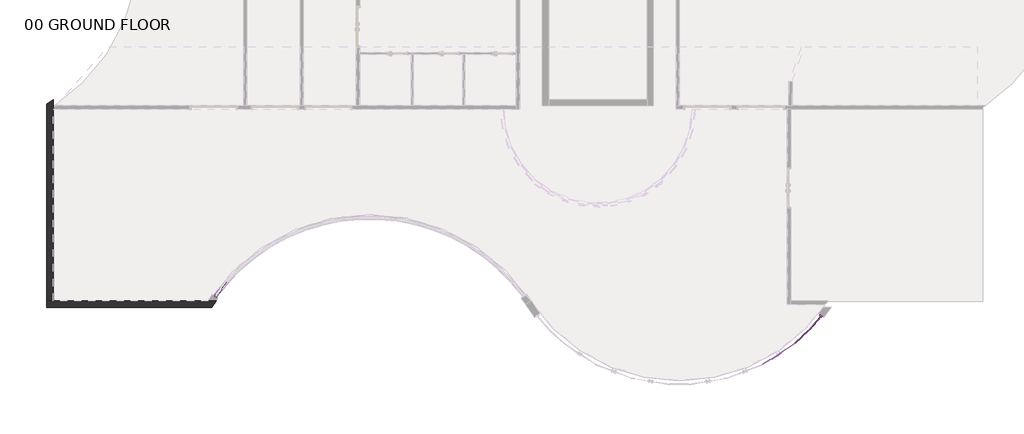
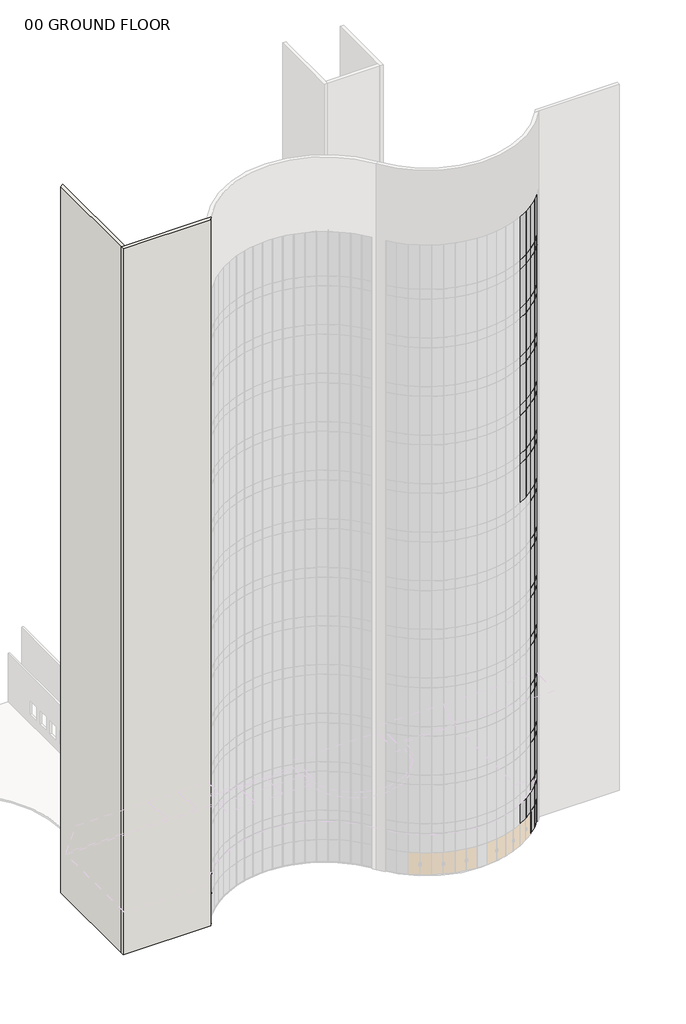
# One storey, part 4 of 33: 78 plates, 30 members, 2 walls.
"""IFC4 building model written with IfcOpenShell, lengths in millimetres."""

from ifc_helpers import new_model, si_unit, frame, origin, place, context, project, spatial, polyline, circle_curve, transform, mapped, element, save
from ifc_brep_helpers import plane_surface, revolved_surface, advanced_brep
from components import member_3374d9b6, member_73c23c35, member_4d31274b, member_2fae0574, member_45b72dba, member_43bcb4d4, system_panel_su_blue_3eab7189, system_panel_su_blue_125f0d55, system_panel_su_blue_e3d46445, system_panel_su_blue_33e27b82, system_panel_su_blue_8cdae4af, system_panel_su_blue_3064f965, system_panel_su_blue_775d8c72, system_panel_su_blue_5a18cedf, system_panel_su_blue_751729b9, system_panel_su_blue_3781345d, system_panel_su_blue_04b5f7fc, system_panel_su_blue_583b5c60

model = new_model("IFC4")

# Units and contexts
model_context = context("Model", 3, world=origin())
ifc_project = project(units=[si_unit("LENGTHUNIT", "METRE", prefix="MILLI")], contexts=[model_context])

# Site, building, storey
site = spatial("IfcSite", under=ifc_project)
building = spatial("IfcBuilding", under=site)
storey = spatial("IfcBuildingStorey", under=building, Name="00 GROUND FLOOR", Elevation=0.0)

# Members
placement = place(None, origin())
member_shape = member_3374d9b6(model_context)
element("IfcMember", 1, ObjectType="Rectangular Mullion : 2.5\" x 5\" rectangular", at=placement, inside=storey, context=model_context, shape_type="MappedRepresentation", body=[
    mapped(member_shape, transform((7803.0326978, 362.2740469, 0.0), x_axis=(-0.6249409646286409, -0.7806720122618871, 0.0), y_axis=(-0.7806720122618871, 0.6249409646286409, 0.0), z_axis=(0.0, 0.0, -1.0))),
])
member_2_shape = member_73c23c35(model_context)
element("IfcMember", 2, ObjectType="Rectangular Mullion : 2.5\" x 5\" rectangular", at=placement, inside=storey, context=model_context, shape_type="MappedRepresentation", body=[
    mapped(member_2_shape, transform((7803.0326978, 362.2740469, 3962.4), x_axis=(-0.624940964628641, -0.780672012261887, 0.0), y_axis=(-0.780672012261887, 0.624940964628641, 0.0), z_axis=(0.0, 0.0, -1.0))),
])
element("IfcMember", 3, ObjectType="Rectangular Mullion : 2.5\" x 5\" rectangular", at=placement, inside=storey, context=model_context, shape_type="MappedRepresentation", body=[
    mapped(member_2_shape, transform((7803.0326978, 362.2740469, 8534.4), x_axis=(-0.624940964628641, -0.780672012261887, 0.0), y_axis=(-0.780672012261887, 0.624940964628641, 0.0), z_axis=(0.0, 0.0, -1.0))),
])
element("IfcMember", 4, ObjectType="Rectangular Mullion : 2.5\" x 5\" rectangular", at=placement, inside=storey, context=model_context, shape_type="MappedRepresentation", body=[
    mapped(member_2_shape, transform((7803.0326978, 362.2740469, 13106.4), x_axis=(-0.624940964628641, -0.780672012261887, 0.0), y_axis=(-0.780672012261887, 0.624940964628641, 0.0), z_axis=(0.0, 0.0, -1.0))),
])
element("IfcMember", 5, ObjectType="Rectangular Mullion : 2.5\" x 5\" rectangular", at=placement, inside=storey, context=model_context, shape_type="MappedRepresentation", body=[
    mapped(member_2_shape, transform((7803.0326978, 362.2740469, 17678.4), x_axis=(-0.624940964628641, -0.780672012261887, 0.0), y_axis=(-0.780672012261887, 0.624940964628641, 0.0), z_axis=(0.0, 0.0, -1.0))),
])
element("IfcMember", 6, ObjectType="Rectangular Mullion : 2.5\" x 5\" rectangular", at=placement, inside=storey, context=model_context, shape_type="MappedRepresentation", body=[
    mapped(member_2_shape, transform((7803.0326978, 362.2740469, 22250.4), x_axis=(-0.624940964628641, -0.780672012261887, 0.0), y_axis=(-0.780672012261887, 0.624940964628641, 0.0), z_axis=(0.0, 0.0, -1.0))),
])
element("IfcMember", 7, ObjectType="Rectangular Mullion : 2.5\" x 5\" rectangular", at=placement, inside=storey, context=model_context, shape_type="MappedRepresentation", body=[
    mapped(member_2_shape, transform((7803.0326978, 362.2740469, 26822.4), x_axis=(-0.624940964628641, -0.780672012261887, 0.0), y_axis=(-0.780672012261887, 0.624940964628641, 0.0), z_axis=(0.0, 0.0, -1.0))),
])
element("IfcMember", 8, ObjectType="Rectangular Mullion : 2.5\" x 5\" rectangular", at=placement, inside=storey, context=model_context, shape_type="MappedRepresentation", body=[
    mapped(member_2_shape, transform((7803.0326978, 362.2740469, 31394.4), x_axis=(-0.624940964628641, -0.780672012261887, 0.0), y_axis=(-0.780672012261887, 0.624940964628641, 0.0), z_axis=(0.0, 0.0, -1.0))),
])
element("IfcMember", 9, ObjectType="Rectangular Mullion : 2.5\" x 5\" rectangular", at=placement, inside=storey, context=model_context, shape_type="MappedRepresentation", body=[
    mapped(member_2_shape, transform((7803.0326978, 362.2740469, 35966.4), x_axis=(-0.624940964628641, -0.780672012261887, 0.0), y_axis=(-0.780672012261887, 0.624940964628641, 0.0), z_axis=(0.0, 0.0, -1.0))),
])
element("IfcMember", 10, ObjectType="Rectangular Mullion : 2.5\" x 5\" rectangular", at=placement, inside=storey, context=model_context, shape_type="MappedRepresentation", body=[
    mapped(member_2_shape, transform((7803.0326978, 362.2740469, 40538.4), x_axis=(-0.624940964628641, -0.780672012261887, 0.0), y_axis=(-0.780672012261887, 0.624940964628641, 0.0), z_axis=(0.0, 0.0, -1.0))),
])
element("IfcMember", 11, ObjectType="Rectangular Mullion : 2.5\" x 5\" rectangular", at=placement, inside=storey, context=model_context, shape_type="MappedRepresentation", body=[
    mapped(member_2_shape, transform((7803.0326978, 362.2740469, 45110.4), x_axis=(-0.624940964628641, -0.780672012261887, 0.0), y_axis=(-0.780672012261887, 0.624940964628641, 0.0), z_axis=(0.0, 0.0, -1.0))),
])
element("IfcMember", 12, ObjectType="Rectangular Mullion : 2.5\" x 5\" rectangular", at=placement, inside=storey, context=model_context, shape_type="MappedRepresentation", body=[
    mapped(member_2_shape, transform((7803.0326978, 362.2740469, 49682.4), x_axis=(-0.624940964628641, -0.780672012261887, 0.0), y_axis=(-0.780672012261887, 0.624940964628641, 0.0), z_axis=(0.0, 0.0, -1.0))),
])
element("IfcMember", 13, ObjectType="Rectangular Mullion : 2.5\" x 5\" rectangular", at=placement, inside=storey, context=model_context, shape_type="MappedRepresentation", body=[
    mapped(member_2_shape, transform((7803.0326978, 362.2740469, 54254.4), x_axis=(-0.624940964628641, -0.780672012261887, 0.0), y_axis=(-0.780672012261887, 0.624940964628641, 0.0), z_axis=(0.0, 0.0, -1.0))),
])
element("IfcMember", 14, ObjectType="Rectangular Mullion : 2.5\" x 5\" rectangular", at=placement, inside=storey, context=model_context, shape_type="MappedRepresentation", body=[
    mapped(member_2_shape, transform((36412.4244373, -523.1917118, 55168.8), x_axis=(0.6625784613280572, 0.7489925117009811, 0.0), y_axis=(-0.7489925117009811, 0.6625784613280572, 0.0), z_axis=(0.0, 0.0, 1.0))),
])
member_3_shape = member_4d31274b(model_context)
element("IfcMember", 15, ObjectType="Rectangular Mullion : 2.5\" x 5\" rectangular", at=placement, inside=storey, context=model_context, shape_type="MappedRepresentation", body=[
    mapped(member_3_shape, transform((7803.0326978, 362.2740469, 4876.8), x_axis=(-0.624940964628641, -0.780672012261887, 0.0), y_axis=(-0.780672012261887, 0.624940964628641, 0.0), z_axis=(0.0, 0.0, -1.0))),
])
element("IfcMember", 16, ObjectType="Rectangular Mullion : 2.5\" x 5\" rectangular", at=placement, inside=storey, context=model_context, shape_type="MappedRepresentation", body=[
    mapped(member_3_shape, transform((7803.0326978, 362.2740469, 9448.8), x_axis=(-0.624940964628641, -0.780672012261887, 0.0), y_axis=(-0.780672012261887, 0.624940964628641, 0.0), z_axis=(0.0, 0.0, -1.0))),
])
element("IfcMember", 17, ObjectType="Rectangular Mullion : 2.5\" x 5\" rectangular", at=placement, inside=storey, context=model_context, shape_type="MappedRepresentation", body=[
    mapped(member_3_shape, transform((7803.0326978, 362.2740469, 14020.8), x_axis=(-0.624940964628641, -0.780672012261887, 0.0), y_axis=(-0.780672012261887, 0.624940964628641, 0.0), z_axis=(0.0, 0.0, -1.0))),
])
element("IfcMember", 18, ObjectType="Rectangular Mullion : 2.5\" x 5\" rectangular", at=placement, inside=storey, context=model_context, shape_type="MappedRepresentation", body=[
    mapped(member_3_shape, transform((7803.0326978, 362.2740469, 18592.8), x_axis=(-0.624940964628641, -0.780672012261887, 0.0), y_axis=(-0.780672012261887, 0.624940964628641, 0.0), z_axis=(0.0, 0.0, -1.0))),
])
element("IfcMember", 19, ObjectType="Rectangular Mullion : 2.5\" x 5\" rectangular", at=placement, inside=storey, context=model_context, shape_type="MappedRepresentation", body=[
    mapped(member_3_shape, transform((7803.0326978, 362.2740469, 23164.8), x_axis=(-0.624940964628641, -0.780672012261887, 0.0), y_axis=(-0.780672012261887, 0.624940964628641, 0.0), z_axis=(0.0, 0.0, -1.0))),
])
element("IfcMember", 20, ObjectType="Rectangular Mullion : 2.5\" x 5\" rectangular", at=placement, inside=storey, context=model_context, shape_type="MappedRepresentation", body=[
    mapped(member_3_shape, transform((7803.0326978, 362.2740469, 27736.8), x_axis=(-0.624940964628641, -0.780672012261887, 0.0), y_axis=(-0.780672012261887, 0.624940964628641, 0.0), z_axis=(0.0, 0.0, -1.0))),
])
element("IfcMember", 21, ObjectType="Rectangular Mullion : 2.5\" x 5\" rectangular", at=placement, inside=storey, context=model_context, shape_type="MappedRepresentation", body=[
    mapped(member_3_shape, transform((7803.0326978, 362.2740469, 32308.8), x_axis=(-0.624940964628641, -0.780672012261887, 0.0), y_axis=(-0.780672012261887, 0.624940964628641, 0.0), z_axis=(0.0, 0.0, -1.0))),
])
element("IfcMember", 22, ObjectType="Rectangular Mullion : 2.5\" x 5\" rectangular", at=placement, inside=storey, context=model_context, shape_type="MappedRepresentation", body=[
    mapped(member_3_shape, transform((7803.0326978, 362.2740469, 36880.8), x_axis=(-0.624940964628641, -0.780672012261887, 0.0), y_axis=(-0.780672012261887, 0.624940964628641, 0.0), z_axis=(0.0, 0.0, -1.0))),
])
element("IfcMember", 23, ObjectType="Rectangular Mullion : 2.5\" x 5\" rectangular", at=placement, inside=storey, context=model_context, shape_type="MappedRepresentation", body=[
    mapped(member_3_shape, transform((7803.0326978, 362.2740469, 41452.8), x_axis=(-0.624940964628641, -0.780672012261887, 0.0), y_axis=(-0.780672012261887, 0.624940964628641, 0.0), z_axis=(0.0, 0.0, -1.0))),
])
element("IfcMember", 24, ObjectType="Rectangular Mullion : 2.5\" x 5\" rectangular", at=placement, inside=storey, context=model_context, shape_type="MappedRepresentation", body=[
    mapped(member_3_shape, transform((7803.0326978, 362.2740469, 46024.8), x_axis=(-0.624940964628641, -0.780672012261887, 0.0), y_axis=(-0.780672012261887, 0.624940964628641, 0.0), z_axis=(0.0, 0.0, -1.0))),
])
element("IfcMember", 25, ObjectType="Rectangular Mullion : 2.5\" x 5\" rectangular", at=placement, inside=storey, context=model_context, shape_type="MappedRepresentation", body=[
    mapped(member_3_shape, transform((7803.0326978, 362.2740469, 50596.8), x_axis=(-0.624940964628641, -0.780672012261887, 0.0), y_axis=(-0.780672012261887, 0.624940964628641, 0.0), z_axis=(0.0, 0.0, -1.0))),
])
element("IfcMember", 26, ObjectType="Rectangular Mullion : 2.5\" x 5\" rectangular", at=placement, inside=storey, context=model_context, shape_type="MappedRepresentation", body=[
    mapped(member_3_shape, transform((36412.4244373, -523.1917118, 54254.4), x_axis=(0.6625784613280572, 0.7489925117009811, 0.0), y_axis=(-0.7489925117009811, 0.6625784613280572, 0.0), z_axis=(0.0, 0.0, 1.0))),
])
member_4_shape = member_2fae0574(model_context)
element("IfcMember", 27, ObjectType="Rectangular Mullion : 2.5\" x 5\" rectangular", at=placement, inside=storey, context=model_context, shape_type="MappedRepresentation", body=[
    mapped(member_4_shape, transform((7803.0326978, 362.2740469, 2133.6), x_axis=(-0.624940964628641, -0.780672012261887, 0.0), y_axis=(-0.780672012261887, 0.624940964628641, 0.0), z_axis=(0.0, 0.0, -1.0))),
])
element("IfcMember", 28, ObjectType="Rectangular Mullion : 2.5\" x 5\" rectangular", at=placement, inside=storey, context=model_context, shape_type="MappedRepresentation", body=[
    mapped(member_shape, transform((36412.4244373, -523.1917118, 2133.6), x_axis=(0.6625784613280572, 0.7489925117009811, 0.0), y_axis=(-0.7489925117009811, 0.6625784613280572, 0.0), z_axis=(0.0, 0.0, 1.0))),
])
member_5_shape = member_45b72dba(model_context)
element("IfcMember", 29, ObjectType="Rectangular Mullion : 2.5\" x 5\" rectangular", at=placement, inside=storey, context=model_context, shape_type="MappedRepresentation", body=[
    mapped(member_5_shape, transform((7803.0326978, 362.2740469, 55168.8), x_axis=(-0.6249409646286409, -0.7806720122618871, 0.0), y_axis=(-0.7806720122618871, 0.6249409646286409, 0.0), z_axis=(0.0, 0.0, -1.0))),
])
member_6_shape = member_43bcb4d4(model_context)
element("IfcMember", 30, ObjectType="Rectangular Mullion : 2.5\" x 5\" rectangular", at=placement, inside=storey, context=model_context, shape_type="MappedRepresentation", body=[
    mapped(member_6_shape, transform((7842.7164491, 411.8467197, 59436.0), x_axis=(0.0, 0.0, 1.0), y_axis=(-0.7806720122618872, 0.6249409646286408, 0.0), z_axis=(-0.6249409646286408, -0.7806720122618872, 0.0))),
])

# Plates
system_panel_su_blue_shape = system_panel_su_blue_3eab7189(model_context)
element("IfcPlate", 31, ObjectType="System Panel : SU_BLUE", at=placement, inside=storey, context=model_context, shape_type="MappedRepresentation", body=[
    mapped(system_panel_su_blue_shape, transform((36091.541449, -885.9245342, 63.5), x_axis=(-0.6625784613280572, -0.7489925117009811, 0.0), y_axis=(0.7489925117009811, -0.6625784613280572, 0.0), z_axis=(0.0, 0.0, 1.0))),
])
system_panel_su_blue_2_shape = system_panel_su_blue_125f0d55(model_context)
element("IfcPlate", 32, ObjectType="System Panel : SU_BLUE", at=placement, inside=storey, context=model_context, shape_type="MappedRepresentation", body=[
    mapped(system_panel_su_blue_2_shape, transform((35478.7630524, -1506.4829309, 63.5), x_axis=(-0.7379810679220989, -0.6748214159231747, 0.0), y_axis=(0.6748214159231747, -0.7379810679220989, 0.0), z_axis=(0.0, 0.0, 1.0))),
])
system_panel_su_blue_3_shape = system_panel_su_blue_e3d46445(model_context)
element("IfcPlate", 33, ObjectType="System Panel : SU_BLUE", at=placement, inside=storey, context=model_context, shape_type="MappedRepresentation", body=[
    mapped(system_panel_su_blue_3_shape, transform((36091.541449, -885.9245342, 3962.4), x_axis=(-0.6625784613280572, -0.7489925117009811, 0.0), y_axis=(0.7489925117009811, -0.6625784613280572, 0.0), z_axis=(0.0, 0.0, 1.0))),
])
element("IfcPlate", 34, ObjectType="System Panel : SU_BLUE", at=placement, inside=storey, context=model_context, shape_type="MappedRepresentation", body=[
    mapped(system_panel_su_blue_3_shape, transform((36091.541449, -885.9245342, 8534.4), x_axis=(-0.6625784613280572, -0.7489925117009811, 0.0), y_axis=(0.7489925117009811, -0.6625784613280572, 0.0), z_axis=(0.0, 0.0, 1.0))),
])
element("IfcPlate", 35, ObjectType="System Panel : SU_BLUE", at=placement, inside=storey, context=model_context, shape_type="MappedRepresentation", body=[
    mapped(system_panel_su_blue_3_shape, transform((36091.541449, -885.9245342, 13106.4), x_axis=(-0.6625784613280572, -0.7489925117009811, 0.0), y_axis=(0.7489925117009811, -0.6625784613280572, 0.0), z_axis=(0.0, 0.0, 1.0))),
])
element("IfcPlate", 36, ObjectType="System Panel : SU_BLUE", at=placement, inside=storey, context=model_context, shape_type="MappedRepresentation", body=[
    mapped(system_panel_su_blue_3_shape, transform((36091.541449, -885.9245342, 17678.4), x_axis=(-0.6625784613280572, -0.7489925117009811, 0.0), y_axis=(0.7489925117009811, -0.6625784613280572, 0.0), z_axis=(0.0, 0.0, 1.0))),
])
element("IfcPlate", 37, ObjectType="System Panel : SU_BLUE", at=placement, inside=storey, context=model_context, shape_type="MappedRepresentation", body=[
    mapped(system_panel_su_blue_3_shape, transform((36091.541449, -885.9245342, 22250.4), x_axis=(-0.6625784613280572, -0.7489925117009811, 0.0), y_axis=(0.7489925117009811, -0.6625784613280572, 0.0), z_axis=(0.0, 0.0, 1.0))),
])
element("IfcPlate", 38, ObjectType="System Panel : SU_BLUE", at=placement, inside=storey, context=model_context, shape_type="MappedRepresentation", body=[
    mapped(system_panel_su_blue_3_shape, transform((36091.541449, -885.9245342, 26822.4), x_axis=(-0.6625784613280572, -0.7489925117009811, 0.0), y_axis=(0.7489925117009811, -0.6625784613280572, 0.0), z_axis=(0.0, 0.0, 1.0))),
])
element("IfcPlate", 39, ObjectType="System Panel : SU_BLUE", at=placement, inside=storey, context=model_context, shape_type="MappedRepresentation", body=[
    mapped(system_panel_su_blue_3_shape, transform((36091.541449, -885.9245342, 31394.4), x_axis=(-0.6625784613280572, -0.7489925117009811, 0.0), y_axis=(0.7489925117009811, -0.6625784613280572, 0.0), z_axis=(0.0, 0.0, 1.0))),
])
element("IfcPlate", 40, ObjectType="System Panel : SU_BLUE", at=placement, inside=storey, context=model_context, shape_type="MappedRepresentation", body=[
    mapped(system_panel_su_blue_3_shape, transform((36091.541449, -885.9245342, 35966.4), x_axis=(-0.6625784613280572, -0.7489925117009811, 0.0), y_axis=(0.7489925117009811, -0.6625784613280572, 0.0), z_axis=(0.0, 0.0, 1.0))),
])
element("IfcPlate", 41, ObjectType="System Panel : SU_BLUE", at=placement, inside=storey, context=model_context, shape_type="MappedRepresentation", body=[
    mapped(system_panel_su_blue_3_shape, transform((36091.541449, -885.9245342, 40538.4), x_axis=(-0.6625784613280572, -0.7489925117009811, 0.0), y_axis=(0.7489925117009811, -0.6625784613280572, 0.0), z_axis=(0.0, 0.0, 1.0))),
])
element("IfcPlate", 42, ObjectType="System Panel : SU_BLUE", at=placement, inside=storey, context=model_context, shape_type="MappedRepresentation", body=[
    mapped(system_panel_su_blue_3_shape, transform((36091.541449, -885.9245342, 45110.4), x_axis=(-0.6625784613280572, -0.7489925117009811, 0.0), y_axis=(0.7489925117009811, -0.6625784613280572, 0.0), z_axis=(0.0, 0.0, 1.0))),
])
element("IfcPlate", 43, ObjectType="System Panel : SU_BLUE", at=placement, inside=storey, context=model_context, shape_type="MappedRepresentation", body=[
    mapped(system_panel_su_blue_3_shape, transform((36091.541449, -885.9245342, 49682.4), x_axis=(-0.6625784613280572, -0.7489925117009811, 0.0), y_axis=(0.7489925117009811, -0.6625784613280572, 0.0), z_axis=(0.0, 0.0, 1.0))),
])
element("IfcPlate", 44, ObjectType="System Panel : SU_BLUE", at=placement, inside=storey, context=model_context, shape_type="MappedRepresentation", body=[
    mapped(system_panel_su_blue_3_shape, transform((36091.541449, -885.9245342, 54254.4), x_axis=(-0.6625784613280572, -0.7489925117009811, 0.0), y_axis=(0.7489925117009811, -0.6625784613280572, 0.0), z_axis=(0.0, 0.0, 1.0))),
])
system_panel_su_blue_4_shape = system_panel_su_blue_33e27b82(model_context)
element("IfcPlate", 45, ObjectType="System Panel : SU_BLUE", at=placement, inside=storey, context=model_context, shape_type="MappedRepresentation", body=[
    mapped(system_panel_su_blue_4_shape, transform((35478.7630524, -1506.4829309, 3962.4), x_axis=(-0.7379810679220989, -0.6748214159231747, 0.0), y_axis=(0.6748214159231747, -0.7379810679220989, 0.0), z_axis=(0.0, 0.0, 1.0))),
])
element("IfcPlate", 46, ObjectType="System Panel : SU_BLUE", at=placement, inside=storey, context=model_context, shape_type="MappedRepresentation", body=[
    mapped(system_panel_su_blue_4_shape, transform((35478.7630524, -1506.4829309, 8534.4), x_axis=(-0.7379810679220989, -0.6748214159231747, 0.0), y_axis=(0.6748214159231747, -0.7379810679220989, 0.0), z_axis=(0.0, 0.0, 1.0))),
])
element("IfcPlate", 47, ObjectType="System Panel : SU_BLUE", at=placement, inside=storey, context=model_context, shape_type="MappedRepresentation", body=[
    mapped(system_panel_su_blue_4_shape, transform((35478.7630524, -1506.4829309, 13106.4), x_axis=(-0.7379810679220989, -0.6748214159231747, 0.0), y_axis=(0.6748214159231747, -0.7379810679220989, 0.0), z_axis=(0.0, 0.0, 1.0))),
])
element("IfcPlate", 48, ObjectType="System Panel : SU_BLUE", at=placement, inside=storey, context=model_context, shape_type="MappedRepresentation", body=[
    mapped(system_panel_su_blue_4_shape, transform((35478.7630524, -1506.4829309, 17678.4), x_axis=(-0.7379810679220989, -0.6748214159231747, 0.0), y_axis=(0.6748214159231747, -0.7379810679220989, 0.0), z_axis=(0.0, 0.0, 1.0))),
])
element("IfcPlate", 49, ObjectType="System Panel : SU_BLUE", at=placement, inside=storey, context=model_context, shape_type="MappedRepresentation", body=[
    mapped(system_panel_su_blue_4_shape, transform((35478.7630524, -1506.4829309, 22250.4), x_axis=(-0.7379810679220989, -0.6748214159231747, 0.0), y_axis=(0.6748214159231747, -0.7379810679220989, 0.0), z_axis=(0.0, 0.0, 1.0))),
])
element("IfcPlate", 50, ObjectType="System Panel : SU_BLUE", at=placement, inside=storey, context=model_context, shape_type="MappedRepresentation", body=[
    mapped(system_panel_su_blue_4_shape, transform((35478.7630524, -1506.4829309, 26822.4), x_axis=(-0.7379810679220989, -0.6748214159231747, 0.0), y_axis=(0.6748214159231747, -0.7379810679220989, 0.0), z_axis=(0.0, 0.0, 1.0))),
])
element("IfcPlate", 51, ObjectType="System Panel : SU_BLUE", at=placement, inside=storey, context=model_context, shape_type="MappedRepresentation", body=[
    mapped(system_panel_su_blue_4_shape, transform((35478.7630524, -1506.4829309, 31394.4), x_axis=(-0.7379810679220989, -0.6748214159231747, 0.0), y_axis=(0.6748214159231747, -0.7379810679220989, 0.0), z_axis=(0.0, 0.0, 1.0))),
])
element("IfcPlate", 52, ObjectType="System Panel : SU_BLUE", at=placement, inside=storey, context=model_context, shape_type="MappedRepresentation", body=[
    mapped(system_panel_su_blue_4_shape, transform((35478.7630524, -1506.4829309, 35966.4), x_axis=(-0.7379810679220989, -0.6748214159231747, 0.0), y_axis=(0.6748214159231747, -0.7379810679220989, 0.0), z_axis=(0.0, 0.0, 1.0))),
])
element("IfcPlate", 53, ObjectType="System Panel : SU_BLUE", at=placement, inside=storey, context=model_context, shape_type="MappedRepresentation", body=[
    mapped(system_panel_su_blue_4_shape, transform((34780.4378309, -2080.27409, 35966.4), x_axis=(-0.8051279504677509, -0.5931011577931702, 0.0), y_axis=(0.5931011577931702, -0.8051279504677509, 0.0), z_axis=(0.0, 0.0, 1.0))),
])
element("IfcPlate", 54, ObjectType="System Panel : SU_BLUE", at=placement, inside=storey, context=model_context, shape_type="MappedRepresentation", body=[
    mapped(system_panel_su_blue_4_shape, transform((34025.4147454, -2577.0985555, 35966.4), x_axis=(-0.8632679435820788, -0.5047459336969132, 0.0), y_axis=(0.5047459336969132, -0.8632679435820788, 0.0), z_axis=(0.0, 0.0, 1.0))),
])
element("IfcPlate", 55, ObjectType="System Panel : SU_BLUE", at=placement, inside=storey, context=model_context, shape_type="MappedRepresentation", body=[
    mapped(system_panel_su_blue_4_shape, transform((35478.7630524, -1506.4829309, 40538.4), x_axis=(-0.7379810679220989, -0.6748214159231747, 0.0), y_axis=(0.6748214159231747, -0.7379810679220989, 0.0), z_axis=(0.0, 0.0, 1.0))),
])
element("IfcPlate", 56, ObjectType="System Panel : SU_BLUE", at=placement, inside=storey, context=model_context, shape_type="MappedRepresentation", body=[
    mapped(system_panel_su_blue_4_shape, transform((34780.4378309, -2080.27409, 40538.4), x_axis=(-0.8051279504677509, -0.5931011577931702, 0.0), y_axis=(0.5931011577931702, -0.8051279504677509, 0.0), z_axis=(0.0, 0.0, 1.0))),
])
element("IfcPlate", 57, ObjectType="System Panel : SU_BLUE", at=placement, inside=storey, context=model_context, shape_type="MappedRepresentation", body=[
    mapped(system_panel_su_blue_4_shape, transform((34025.4147454, -2577.0985555, 40538.4), x_axis=(-0.8632679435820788, -0.5047459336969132, 0.0), y_axis=(0.5047459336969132, -0.8632679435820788, 0.0), z_axis=(0.0, 0.0, 1.0))),
])
element("IfcPlate", 58, ObjectType="System Panel : SU_BLUE", at=placement, inside=storey, context=model_context, shape_type="MappedRepresentation", body=[
    mapped(system_panel_su_blue_4_shape, transform((35478.7630524, -1506.4829309, 45110.4), x_axis=(-0.7379810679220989, -0.6748214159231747, 0.0), y_axis=(0.6748214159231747, -0.7379810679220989, 0.0), z_axis=(0.0, 0.0, 1.0))),
])
element("IfcPlate", 59, ObjectType="System Panel : SU_BLUE", at=placement, inside=storey, context=model_context, shape_type="MappedRepresentation", body=[
    mapped(system_panel_su_blue_4_shape, transform((34780.4378309, -2080.27409, 45110.4), x_axis=(-0.8051279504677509, -0.5931011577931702, 0.0), y_axis=(0.5931011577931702, -0.8051279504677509, 0.0), z_axis=(0.0, 0.0, 1.0))),
])
element("IfcPlate", 60, ObjectType="System Panel : SU_BLUE", at=placement, inside=storey, context=model_context, shape_type="MappedRepresentation", body=[
    mapped(system_panel_su_blue_4_shape, transform((34025.4147454, -2577.0985555, 45110.4), x_axis=(-0.8632679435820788, -0.5047459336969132, 0.0), y_axis=(0.5047459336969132, -0.8632679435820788, 0.0), z_axis=(0.0, 0.0, 1.0))),
])
element("IfcPlate", 61, ObjectType="System Panel : SU_BLUE", at=placement, inside=storey, context=model_context, shape_type="MappedRepresentation", body=[
    mapped(system_panel_su_blue_4_shape, transform((35478.7630524, -1506.4829309, 49682.4), x_axis=(-0.7379810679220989, -0.6748214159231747, 0.0), y_axis=(0.6748214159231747, -0.7379810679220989, 0.0), z_axis=(0.0, 0.0, 1.0))),
])
element("IfcPlate", 62, ObjectType="System Panel : SU_BLUE", at=placement, inside=storey, context=model_context, shape_type="MappedRepresentation", body=[
    mapped(system_panel_su_blue_4_shape, transform((34780.4378309, -2080.27409, 49682.4), x_axis=(-0.8051279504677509, -0.5931011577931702, 0.0), y_axis=(0.5931011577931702, -0.8051279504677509, 0.0), z_axis=(0.0, 0.0, 1.0))),
])
element("IfcPlate", 63, ObjectType="System Panel : SU_BLUE", at=placement, inside=storey, context=model_context, shape_type="MappedRepresentation", body=[
    mapped(system_panel_su_blue_4_shape, transform((34025.4147454, -2577.0985555, 49682.4), x_axis=(-0.8632679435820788, -0.5047459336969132, 0.0), y_axis=(0.5047459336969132, -0.8632679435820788, 0.0), z_axis=(0.0, 0.0, 1.0))),
])
element("IfcPlate", 64, ObjectType="System Panel : SU_BLUE", at=placement, inside=storey, context=model_context, shape_type="MappedRepresentation", body=[
    mapped(system_panel_su_blue_4_shape, transform((35478.7630524, -1506.4829309, 54254.4), x_axis=(-0.7379810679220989, -0.6748214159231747, 0.0), y_axis=(0.6748214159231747, -0.7379810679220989, 0.0), z_axis=(0.0, 0.0, 1.0))),
])
element("IfcPlate", 65, ObjectType="System Panel : SU_BLUE", at=placement, inside=storey, context=model_context, shape_type="MappedRepresentation", body=[
    mapped(system_panel_su_blue_4_shape, transform((34780.4378309, -2080.27409, 54254.4), x_axis=(-0.8051279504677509, -0.5931011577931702, 0.0), y_axis=(0.5931011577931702, -0.8051279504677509, 0.0), z_axis=(0.0, 0.0, 1.0))),
])
element("IfcPlate", 66, ObjectType="System Panel : SU_BLUE", at=placement, inside=storey, context=model_context, shape_type="MappedRepresentation", body=[
    mapped(system_panel_su_blue_4_shape, transform((34025.4147454, -2577.0985555, 54254.4), x_axis=(-0.8632679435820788, -0.5047459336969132, 0.0), y_axis=(0.5047459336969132, -0.8632679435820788, 0.0), z_axis=(0.0, 0.0, 1.0))),
])
system_panel_su_blue_5_shape = system_panel_su_blue_8cdae4af(model_context)
element("IfcPlate", 67, ObjectType="System Panel : SU_BLUE", at=placement, inside=storey, context=model_context, shape_type="MappedRepresentation", body=[
    mapped(system_panel_su_blue_5_shape, transform((36091.541449, -885.9245342, 4876.8), x_axis=(-0.6625784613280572, -0.7489925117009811, 0.0), y_axis=(0.7489925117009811, -0.6625784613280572, 0.0), z_axis=(0.0, 0.0, 1.0))),
])
element("IfcPlate", 68, ObjectType="System Panel : SU_BLUE", at=placement, inside=storey, context=model_context, shape_type="MappedRepresentation", body=[
    mapped(system_panel_su_blue_5_shape, transform((36091.541449, -885.9245342, 9448.8), x_axis=(-0.6625784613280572, -0.7489925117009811, 0.0), y_axis=(0.7489925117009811, -0.6625784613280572, 0.0), z_axis=(0.0, 0.0, 1.0))),
])
element("IfcPlate", 69, ObjectType="System Panel : SU_BLUE", at=placement, inside=storey, context=model_context, shape_type="MappedRepresentation", body=[
    mapped(system_panel_su_blue_5_shape, transform((36091.541449, -885.9245342, 14020.8), x_axis=(-0.6625784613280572, -0.7489925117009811, 0.0), y_axis=(0.7489925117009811, -0.6625784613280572, 0.0), z_axis=(0.0, 0.0, 1.0))),
])
element("IfcPlate", 70, ObjectType="System Panel : SU_BLUE", at=placement, inside=storey, context=model_context, shape_type="MappedRepresentation", body=[
    mapped(system_panel_su_blue_5_shape, transform((36091.541449, -885.9245342, 18592.8), x_axis=(-0.6625784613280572, -0.7489925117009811, 0.0), y_axis=(0.7489925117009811, -0.6625784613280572, 0.0), z_axis=(0.0, 0.0, 1.0))),
])
element("IfcPlate", 71, ObjectType="System Panel : SU_BLUE", at=placement, inside=storey, context=model_context, shape_type="MappedRepresentation", body=[
    mapped(system_panel_su_blue_5_shape, transform((36091.541449, -885.9245342, 23164.8), x_axis=(-0.6625784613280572, -0.7489925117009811, 0.0), y_axis=(0.7489925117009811, -0.6625784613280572, 0.0), z_axis=(0.0, 0.0, 1.0))),
])
element("IfcPlate", 72, ObjectType="System Panel : SU_BLUE", at=placement, inside=storey, context=model_context, shape_type="MappedRepresentation", body=[
    mapped(system_panel_su_blue_5_shape, transform((36091.541449, -885.9245342, 27736.8), x_axis=(-0.6625784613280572, -0.7489925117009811, 0.0), y_axis=(0.7489925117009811, -0.6625784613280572, 0.0), z_axis=(0.0, 0.0, 1.0))),
])
element("IfcPlate", 73, ObjectType="System Panel : SU_BLUE", at=placement, inside=storey, context=model_context, shape_type="MappedRepresentation", body=[
    mapped(system_panel_su_blue_5_shape, transform((36091.541449, -885.9245342, 32308.8), x_axis=(-0.6625784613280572, -0.7489925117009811, 0.0), y_axis=(0.7489925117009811, -0.6625784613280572, 0.0), z_axis=(0.0, 0.0, 1.0))),
])
element("IfcPlate", 74, ObjectType="System Panel : SU_BLUE", at=placement, inside=storey, context=model_context, shape_type="MappedRepresentation", body=[
    mapped(system_panel_su_blue_5_shape, transform((36091.541449, -885.9245342, 36880.8), x_axis=(-0.6625784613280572, -0.7489925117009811, 0.0), y_axis=(0.7489925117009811, -0.6625784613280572, 0.0), z_axis=(0.0, 0.0, 1.0))),
])
element("IfcPlate", 75, ObjectType="System Panel : SU_BLUE", at=placement, inside=storey, context=model_context, shape_type="MappedRepresentation", body=[
    mapped(system_panel_su_blue_5_shape, transform((36091.541449, -885.9245342, 41452.8), x_axis=(-0.6625784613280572, -0.7489925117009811, 0.0), y_axis=(0.7489925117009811, -0.6625784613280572, 0.0), z_axis=(0.0, 0.0, 1.0))),
])
element("IfcPlate", 76, ObjectType="System Panel : SU_BLUE", at=placement, inside=storey, context=model_context, shape_type="MappedRepresentation", body=[
    mapped(system_panel_su_blue_5_shape, transform((36091.541449, -885.9245342, 46024.8), x_axis=(-0.6625784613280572, -0.7489925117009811, 0.0), y_axis=(0.7489925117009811, -0.6625784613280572, 0.0), z_axis=(0.0, 0.0, 1.0))),
])
element("IfcPlate", 77, ObjectType="System Panel : SU_BLUE", at=placement, inside=storey, context=model_context, shape_type="MappedRepresentation", body=[
    mapped(system_panel_su_blue_5_shape, transform((36091.541449, -885.9245342, 50596.8), x_axis=(-0.6625784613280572, -0.7489925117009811, 0.0), y_axis=(0.7489925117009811, -0.6625784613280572, 0.0), z_axis=(0.0, 0.0, 1.0))),
])
system_panel_su_blue_6_shape = system_panel_su_blue_3064f965(model_context)
element("IfcPlate", 78, ObjectType="System Panel : SU_BLUE", at=placement, inside=storey, context=model_context, shape_type="MappedRepresentation", body=[
    mapped(system_panel_su_blue_6_shape, transform((35478.7630524, -1506.4829309, 4876.8), x_axis=(-0.7379810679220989, -0.6748214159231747, 0.0), y_axis=(0.6748214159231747, -0.7379810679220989, 0.0), z_axis=(0.0, 0.0, 1.0))),
])
element("IfcPlate", 79, ObjectType="System Panel : SU_BLUE", at=placement, inside=storey, context=model_context, shape_type="MappedRepresentation", body=[
    mapped(system_panel_su_blue_6_shape, transform((35478.7630524, -1506.4829309, 9448.8), x_axis=(-0.7379810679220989, -0.6748214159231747, 0.0), y_axis=(0.6748214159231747, -0.7379810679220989, 0.0), z_axis=(0.0, 0.0, 1.0))),
])
element("IfcPlate", 80, ObjectType="System Panel : SU_BLUE", at=placement, inside=storey, context=model_context, shape_type="MappedRepresentation", body=[
    mapped(system_panel_su_blue_6_shape, transform((35478.7630524, -1506.4829309, 14020.8), x_axis=(-0.7379810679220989, -0.6748214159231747, 0.0), y_axis=(0.6748214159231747, -0.7379810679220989, 0.0), z_axis=(0.0, 0.0, 1.0))),
])
element("IfcPlate", 81, ObjectType="System Panel : SU_BLUE", at=placement, inside=storey, context=model_context, shape_type="MappedRepresentation", body=[
    mapped(system_panel_su_blue_6_shape, transform((35478.7630524, -1506.4829309, 18592.8), x_axis=(-0.7379810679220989, -0.6748214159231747, 0.0), y_axis=(0.6748214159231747, -0.7379810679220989, 0.0), z_axis=(0.0, 0.0, 1.0))),
])
element("IfcPlate", 82, ObjectType="System Panel : SU_BLUE", at=placement, inside=storey, context=model_context, shape_type="MappedRepresentation", body=[
    mapped(system_panel_su_blue_6_shape, transform((35478.7630524, -1506.4829309, 23164.8), x_axis=(-0.7379810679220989, -0.6748214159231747, 0.0), y_axis=(0.6748214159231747, -0.7379810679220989, 0.0), z_axis=(0.0, 0.0, 1.0))),
])
element("IfcPlate", 83, ObjectType="System Panel : SU_BLUE", at=placement, inside=storey, context=model_context, shape_type="MappedRepresentation", body=[
    mapped(system_panel_su_blue_6_shape, transform((35478.7630524, -1506.4829309, 27736.8), x_axis=(-0.7379810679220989, -0.6748214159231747, 0.0), y_axis=(0.6748214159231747, -0.7379810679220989, 0.0), z_axis=(0.0, 0.0, 1.0))),
])
element("IfcPlate", 84, ObjectType="System Panel : SU_BLUE", at=placement, inside=storey, context=model_context, shape_type="MappedRepresentation", body=[
    mapped(system_panel_su_blue_6_shape, transform((35478.7630524, -1506.4829309, 32308.8), x_axis=(-0.7379810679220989, -0.6748214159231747, 0.0), y_axis=(0.6748214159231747, -0.7379810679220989, 0.0), z_axis=(0.0, 0.0, 1.0))),
])
element("IfcPlate", 85, ObjectType="System Panel : SU_BLUE", at=placement, inside=storey, context=model_context, shape_type="MappedRepresentation", body=[
    mapped(system_panel_su_blue_6_shape, transform((34780.4378309, -2080.27409, 32308.8), x_axis=(-0.8051279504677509, -0.5931011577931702, 0.0), y_axis=(0.5931011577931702, -0.8051279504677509, 0.0), z_axis=(0.0, 0.0, 1.0))),
])
element("IfcPlate", 86, ObjectType="System Panel : SU_BLUE", at=placement, inside=storey, context=model_context, shape_type="MappedRepresentation", body=[
    mapped(system_panel_su_blue_6_shape, transform((34025.4147454, -2577.0985555, 32308.8), x_axis=(-0.8632679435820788, -0.5047459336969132, 0.0), y_axis=(0.5047459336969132, -0.8632679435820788, 0.0), z_axis=(0.0, 0.0, 1.0))),
])
element("IfcPlate", 87, ObjectType="System Panel : SU_BLUE", at=placement, inside=storey, context=model_context, shape_type="MappedRepresentation", body=[
    mapped(system_panel_su_blue_6_shape, transform((35478.7630524, -1506.4829309, 36880.8), x_axis=(-0.7379810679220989, -0.6748214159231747, 0.0), y_axis=(0.6748214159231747, -0.7379810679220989, 0.0), z_axis=(0.0, 0.0, 1.0))),
])
element("IfcPlate", 88, ObjectType="System Panel : SU_BLUE", at=placement, inside=storey, context=model_context, shape_type="MappedRepresentation", body=[
    mapped(system_panel_su_blue_6_shape, transform((34780.4378309, -2080.27409, 36880.8), x_axis=(-0.8051279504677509, -0.5931011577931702, 0.0), y_axis=(0.5931011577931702, -0.8051279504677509, 0.0), z_axis=(0.0, 0.0, 1.0))),
])
element("IfcPlate", 89, ObjectType="System Panel : SU_BLUE", at=placement, inside=storey, context=model_context, shape_type="MappedRepresentation", body=[
    mapped(system_panel_su_blue_6_shape, transform((34025.4147454, -2577.0985555, 36880.8), x_axis=(-0.8632679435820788, -0.5047459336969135, 0.0), y_axis=(0.5047459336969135, -0.8632679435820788, 0.0), z_axis=(0.0, 0.0, 1.0))),
])
element("IfcPlate", 90, ObjectType="System Panel : SU_BLUE", at=placement, inside=storey, context=model_context, shape_type="MappedRepresentation", body=[
    mapped(system_panel_su_blue_6_shape, transform((35478.7630524, -1506.4829309, 41452.8), x_axis=(-0.7379810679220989, -0.6748214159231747, 0.0), y_axis=(0.6748214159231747, -0.7379810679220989, 0.0), z_axis=(0.0, 0.0, 1.0))),
])
element("IfcPlate", 91, ObjectType="System Panel : SU_BLUE", at=placement, inside=storey, context=model_context, shape_type="MappedRepresentation", body=[
    mapped(system_panel_su_blue_6_shape, transform((34780.4378309, -2080.27409, 41452.8), x_axis=(-0.8051279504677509, -0.5931011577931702, 0.0), y_axis=(0.5931011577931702, -0.8051279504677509, 0.0), z_axis=(0.0, 0.0, 1.0))),
])
element("IfcPlate", 92, ObjectType="System Panel : SU_BLUE", at=placement, inside=storey, context=model_context, shape_type="MappedRepresentation", body=[
    mapped(system_panel_su_blue_6_shape, transform((34025.4147454, -2577.0985555, 41452.8), x_axis=(-0.8632679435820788, -0.5047459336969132, 0.0), y_axis=(0.5047459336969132, -0.8632679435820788, 0.0), z_axis=(0.0, 0.0, 1.0))),
])
element("IfcPlate", 93, ObjectType="System Panel : SU_BLUE", at=placement, inside=storey, context=model_context, shape_type="MappedRepresentation", body=[
    mapped(system_panel_su_blue_6_shape, transform((35478.7630524, -1506.4829309, 46024.8), x_axis=(-0.7379810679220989, -0.6748214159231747, 0.0), y_axis=(0.6748214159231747, -0.7379810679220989, 0.0), z_axis=(0.0, 0.0, 1.0))),
])
element("IfcPlate", 94, ObjectType="System Panel : SU_BLUE", at=placement, inside=storey, context=model_context, shape_type="MappedRepresentation", body=[
    mapped(system_panel_su_blue_6_shape, transform((34780.4378309, -2080.27409, 46024.8), x_axis=(-0.8051279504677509, -0.5931011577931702, 0.0), y_axis=(0.5931011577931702, -0.8051279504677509, 0.0), z_axis=(0.0, 0.0, 1.0))),
])
element("IfcPlate", 95, ObjectType="System Panel : SU_BLUE", at=placement, inside=storey, context=model_context, shape_type="MappedRepresentation", body=[
    mapped(system_panel_su_blue_6_shape, transform((34025.4147454, -2577.0985555, 46024.8), x_axis=(-0.8632679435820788, -0.5047459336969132, 0.0), y_axis=(0.5047459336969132, -0.8632679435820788, 0.0), z_axis=(0.0, 0.0, 1.0))),
])
element("IfcPlate", 96, ObjectType="System Panel : SU_BLUE", at=placement, inside=storey, context=model_context, shape_type="MappedRepresentation", body=[
    mapped(system_panel_su_blue_6_shape, transform((35478.7630524, -1506.4829309, 50596.8), x_axis=(-0.7379810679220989, -0.6748214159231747, 0.0), y_axis=(0.6748214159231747, -0.7379810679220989, 0.0), z_axis=(0.0, 0.0, 1.0))),
])
element("IfcPlate", 97, ObjectType="System Panel : SU_BLUE", at=placement, inside=storey, context=model_context, shape_type="MappedRepresentation", body=[
    mapped(system_panel_su_blue_6_shape, transform((34780.4378309, -2080.27409, 50596.8), x_axis=(-0.8051279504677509, -0.5931011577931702, 0.0), y_axis=(0.5931011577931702, -0.8051279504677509, 0.0), z_axis=(0.0, 0.0, 1.0))),
])
element("IfcPlate", 98, ObjectType="System Panel : SU_BLUE", at=placement, inside=storey, context=model_context, shape_type="MappedRepresentation", body=[
    mapped(system_panel_su_blue_6_shape, transform((34025.4147454, -2577.0985555, 50596.8), x_axis=(-0.8632679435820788, -0.5047459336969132, 0.0), y_axis=(0.5047459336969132, -0.8632679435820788, 0.0), z_axis=(0.0, 0.0, 1.0))),
])
system_panel_su_blue_7_shape = system_panel_su_blue_775d8c72(model_context)
element("IfcPlate", 99, ObjectType="System Panel : SU_BLUE", at=placement, inside=storey, context=model_context, shape_type="MappedRepresentation", body=[
    mapped(system_panel_su_blue_7_shape, transform((36091.541449, -885.9245342, 2133.6), x_axis=(-0.6625784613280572, -0.7489925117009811, 0.0), y_axis=(0.7489925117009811, -0.6625784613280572, 0.0), z_axis=(0.0, 0.0, 1.0))),
])
system_panel_su_blue_8_shape = system_panel_su_blue_5a18cedf(model_context)
element("IfcPlate", 100, ObjectType="System Panel : SU_BLUE", at=placement, inside=storey, context=model_context, shape_type="MappedRepresentation", body=[
    mapped(system_panel_su_blue_8_shape, transform((35478.7630524, -1506.4829309, 2133.6), x_axis=(-0.7379810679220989, -0.6748214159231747, 0.0), y_axis=(0.6748214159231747, -0.7379810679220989, 0.0), z_axis=(0.0, 0.0, 1.0))),
])
element("IfcPlate", 101, ObjectType="System Panel : SU_BLUE", at=placement, inside=storey, context=model_context, shape_type="MappedRepresentation", body=[
    mapped(system_panel_su_blue_8_shape, transform((34780.4378309, -2080.27409, 2133.6), x_axis=(-0.8051279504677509, -0.5931011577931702, 0.0), y_axis=(0.5931011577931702, -0.8051279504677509, 0.0), z_axis=(0.0, 0.0, 1.0))),
])
element("IfcPlate", 102, ObjectType="System Panel : SU_BLUE", at=placement, inside=storey, context=model_context, shape_type="MappedRepresentation", body=[
    mapped(system_panel_su_blue_8_shape, transform((34025.4147454, -2577.0985555, 2133.6), x_axis=(-0.8632679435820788, -0.5047459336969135, 0.0), y_axis=(0.5047459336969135, -0.8632679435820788, 0.0), z_axis=(0.0, 0.0, 1.0))),
])
system_panel_su_blue_9_shape = system_panel_su_blue_751729b9(model_context)
element("IfcPlate", 103, ObjectType="System Panel : SU_BLUE", at=placement, inside=storey, context=model_context, shape_type="MappedRepresentation", body=[
    mapped(system_panel_su_blue_9_shape, transform((36091.541449, -885.9245342, 55168.8), x_axis=(-0.6625784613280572, -0.7489925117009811, 0.0), y_axis=(0.7489925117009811, -0.6625784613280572, 0.0), z_axis=(0.0, 0.0, 1.0))),
])
system_panel_su_blue_10_shape = system_panel_su_blue_3781345d(model_context)
element("IfcPlate", 104, ObjectType="System Panel : SU_BLUE", at=placement, inside=storey, context=model_context, shape_type="MappedRepresentation", body=[
    mapped(system_panel_su_blue_10_shape, transform((35478.7630524, -1506.4829309, 55168.8), x_axis=(-0.7379810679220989, -0.6748214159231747, 0.0), y_axis=(0.6748214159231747, -0.7379810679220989, 0.0), z_axis=(0.0, 0.0, 1.0))),
])
element("IfcPlate", 105, ObjectType="System Panel : SU_BLUE", at=placement, inside=storey, context=model_context, shape_type="MappedRepresentation", body=[
    mapped(system_panel_su_blue_10_shape, transform((34780.4378309, -2080.27409, 55168.8), x_axis=(-0.8051279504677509, -0.5931011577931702, 0.0), y_axis=(0.5931011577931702, -0.8051279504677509, 0.0), z_axis=(0.0, 0.0, 1.0))),
])
element("IfcPlate", 106, ObjectType="System Panel : SU_BLUE", at=placement, inside=storey, context=model_context, shape_type="MappedRepresentation", body=[
    mapped(system_panel_su_blue_10_shape, transform((34025.4147454, -2577.0985555, 55168.8), x_axis=(-0.8632679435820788, -0.5047459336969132, 0.0), y_axis=(0.5047459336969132, -0.8632679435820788, 0.0), z_axis=(0.0, 0.0, 1.0))),
])
system_panel_su_blue_11_shape = system_panel_su_blue_04b5f7fc(model_context)
element("IfcPlate", 107, ObjectType="System Panel : SU_BLUE", at=placement, inside=storey, context=model_context, shape_type="MappedRepresentation", body=[
    mapped(system_panel_su_blue_11_shape, transform((8102.2916859, 736.106344, 63.5), x_axis=(-0.6249409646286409, -0.7806720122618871, 0.0), y_axis=(0.7806720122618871, -0.6249409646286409, 0.0), z_axis=(0.0, 0.0, 1.0))),
])
system_panel_su_blue_12_shape = system_panel_su_blue_583b5c60(model_context)
element("IfcPlate", 108, ObjectType="System Panel : SU_BLUE", at=placement, inside=storey, context=model_context, shape_type="MappedRepresentation", body=[
    mapped(system_panel_su_blue_12_shape, transform((8102.2916859, 736.106344, 2133.6), x_axis=(-0.624940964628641, -0.780672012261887, 0.0), y_axis=(0.780672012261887, -0.624940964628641, 0.0), z_axis=(0.0, 0.0, 1.0))),
])

# Walls
element("IfcWall", 109, ObjectType="Exterior - MAIN EIFS WITH LGMF", at=placement, inside=storey, context=model_context, shape_type="AdvancedBrep", body=[
    advanced_brep(
    [(7847.0947805, 155.575, 0.0), (7470.775, 155.575, 0.0), (155.575, 155.575, 0.0), (-155.575, 155.575, 0.0), (-155.575, 155.575, 66446.4), (155.575, 155.575, 66446.4), (7470.775, 155.575, 66446.4), (7847.0947805, 155.575, 66446.4), (7639.6323584, -155.575, 0.0), (7639.6323584, -155.575, 66446.4), (-155.575, -155.575, 66446.4), (-155.575, -155.575, 0.0)],
    [
        (0, 1),
        (1, 2),
        (2, 3),
        (3, 4),
        (4, 5),
        (5, 6),
        (6, 7),
        (7, 0),
        (8, 9),
        (9, 10),
        (10, 11),
        (11, 8),
        (0, 8, circle_curve(frame((15090.775, -4898.9611805, 0.0), z_axis=(0.0, 0.0, 1.0), x_axis=(1.0, 0.0, 0.0)), 8832.85)),
        (11, 3),
        (4, 10),
        (9, 7, circle_curve(frame((15090.775, -4898.9611805, 66446.4), z_axis=(0.0, 0.0, -1.0), x_axis=(1.0, 0.0, 0.0)), 8832.85)),
    ],
    [
        plane_surface(frame((7470.775, 155.575, 0.0), z_axis=(0.0, 1.0, 0.0), x_axis=(-1.0, 0.0, 0.0))),
        plane_surface(frame((7470.775, -155.575, 0.0), z_axis=(0.0, -1.0, 0.0), x_axis=(1.0, 0.0, 0.0))),
        plane_surface(frame((7554.7307238, 155.575, 0.0), z_axis=(0.0, 0.0, -1.0), x_axis=(0.0, -1.0, 0.0))),
        plane_surface(frame((0.0, 155.575, 66446.4), z_axis=(0.0, 0.0, 1.0), x_axis=(0.0, -1.0, 0.0))),
        plane_surface(frame((-155.575, 155.575, 0.0), z_axis=(-1.0, 0.0, 0.0), x_axis=(0.0, -1.0, 0.0))),
        revolved_surface(polyline([(23923.625, -4898.9611805, 0.0), (23923.625, -4898.9611805, 66446.4)]), (15090.775, -4898.9611805, 0.0), (0.0, 0.0, -1.0)),
    ],
    [
        (0, [[1, 2, 3, 4, 5, 6, 7, 8]]),
        (1, [[9, 10, 11, 12]]),
        (2, [[-3, -2, -1, 13, -12, 14]]),
        (3, [[-7, -6, -5, 15, -10, 16]]),
        (4, [[-4, -14, -11, -15]]),
        (5, [[-8, -16, -9, -13]]),
    ],
),
])
element("IfcWall", 110, ObjectType="Exterior - MAIN EIFS WITH LGMF", at=placement, inside=storey, context=model_context, shape_type="AdvancedBrep", body=[
    advanced_brep(
    [(155.575, 155.575, 0.0), (155.575, 9221.7875, 0.0), (155.575, 9299.575, 0.0), (155.575, 9675.8947805, 0.0), (155.575, 9675.8947805, 66446.4), (155.575, 9299.575, 66446.4), (155.575, 155.575, 66446.4), (-155.575, 155.575, 0.0), (-155.575, 155.575, 66446.4), (-155.575, 9468.4323584, 66446.4), (-155.575, 9468.4323584, 0.0)],
    [
        (0, 1),
        (1, 2),
        (2, 3),
        (3, 4),
        (4, 5),
        (5, 6),
        (6, 0),
        (7, 8),
        (8, 9),
        (9, 10),
        (10, 7),
        (0, 7),
        (10, 3, circle_curve(frame((-4898.9611805, 16919.575, 0.0), z_axis=(0.0, 0.0, 1.0), x_axis=(1.0, 0.0, 0.0)), 8832.85)),
        (4, 9, circle_curve(frame((-4898.9611805, 16919.575, 66446.4), z_axis=(0.0, 0.0, -1.0), x_axis=(1.0, 0.0, 0.0)), 8832.85)),
        (8, 6),
    ],
    [
        plane_surface(frame((155.575, 155.575, 0.0), z_axis=(1.0, 0.0, 0.0), x_axis=(0.0, 1.0, 0.0))),
        plane_surface(frame((-155.575, 155.575, 0.0), z_axis=(-1.0, 0.0, 0.0), x_axis=(0.0, -1.0, 0.0))),
        plane_surface(frame((155.575, 0.0, 0.0), z_axis=(0.0, 0.0, -1.0), x_axis=(-1.0, 0.0, 0.0))),
        plane_surface(frame((155.575, 9383.5307238, 66446.4), z_axis=(0.0, 0.0, 1.0), x_axis=(-1.0, 0.0, 0.0))),
        revolved_surface(polyline([(3933.8888195, 16919.575, 0.0), (3933.8888195, 16919.575, 66446.4)]), (-4898.9611805, 16919.575, 0.0), (0.0, 0.0, -1.0)),
        plane_surface(frame((7470.775, 155.575, 0.0), z_axis=(0.0, -1.0, 0.0), x_axis=(-1.0, 0.0, 0.0))),
    ],
    [
        (0, [[1, 2, 3, 4, 5, 6, 7]]),
        (1, [[8, 9, 10, 11]]),
        (2, [[-3, -2, -1, 12, -11, 13]]),
        (3, [[-6, -5, 14, -9, 15]]),
        (4, [[-13, -10, -14, -4]]),
        (5, [[-7, -15, -8, -12]]),
    ],
),
])

save(model, "model.ifc")
